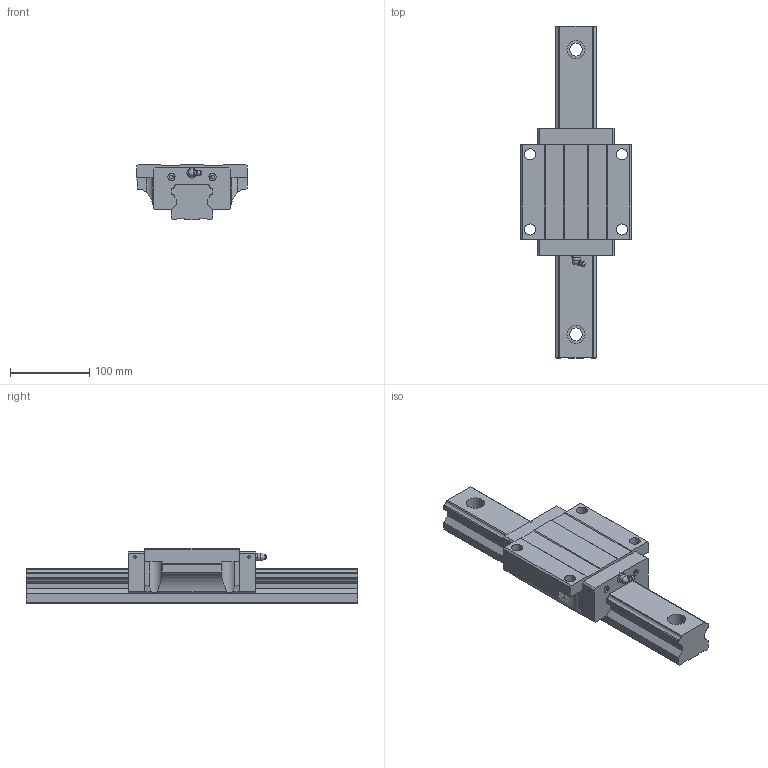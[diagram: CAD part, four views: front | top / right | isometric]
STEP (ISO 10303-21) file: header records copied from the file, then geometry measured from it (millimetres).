
FILE_DESCRIPTION(/* description */ (''),/* implementation_level */ '2;1');
FILE_NAME(/* name */ 'MSA55E',/* time_stamp */ '2005-12-26T16:26:29+08:00',/* author */ (''),/* organization */ (''),/* preprocessor_version */ 'ST-DEVELOPER v9',/* originating_system */ 'UGS - NX 3.0',/* authorisation */ '');
FILE_SCHEMA (('CONFIG_CONTROL_DESIGN'));
Length unit declared in the file: millimetre
Products named in the file (1): kevi37F33h2y
Bounding box: 140 x 420 x 70 mm (x, y, z)
Volume: 1601287.3 mm3; surface area: 181278 mm2
Topology: 3 solids, 3 shells, 198 faces, 523 edges, 348 vertices
Faces by surface type: plane 127, cylinder 60, torus 7, sphere 2, cone 1, bspline 1
Full cylindrical faces by diameter (mm): 3.3 x4, 4.5 x4, 9 x4, 10 x1, 13 x2, 14 x4, 16 x4, 23 x4
Entity records: 6138 total; most frequent: CARTESIAN_POINT 1246, DIRECTION 979, ORIENTED_EDGE 958, EDGE_CURVE 479, VERTEX_POINT 336, AXIS2_PLACEMENT_3D 333, LINE 313, VECTOR 313
